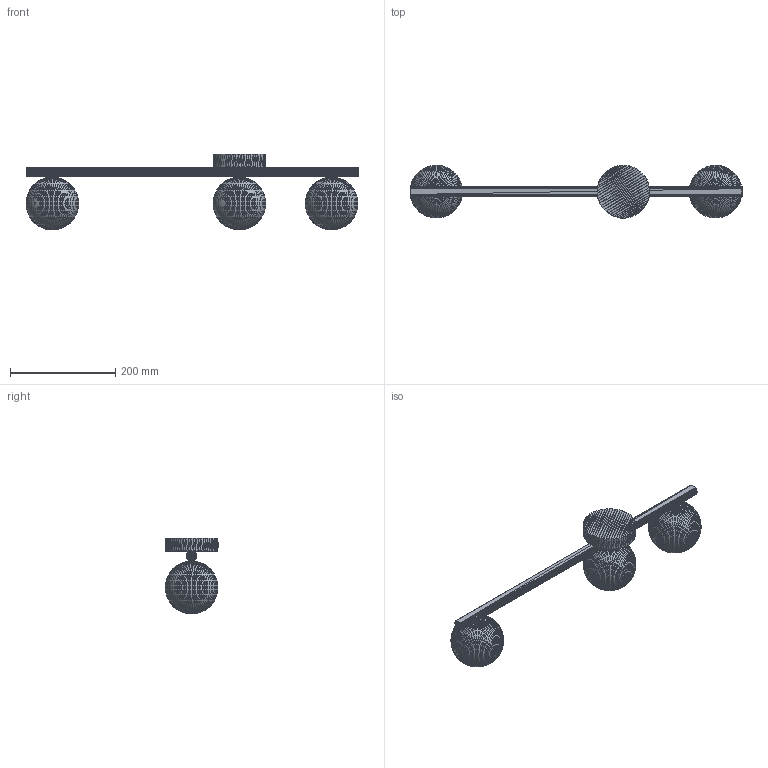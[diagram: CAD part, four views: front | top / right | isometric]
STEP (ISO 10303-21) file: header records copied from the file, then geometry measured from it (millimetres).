
FILE_DESCRIPTION(('FreeCAD Model'),'2;1');
FILE_NAME('Open CASCADE Shape Model','2022-11-30T01:14:23',('Author'),( ''),'Open CASCADE STEP processor 7.6','FreeCAD','Unknown');
FILE_SCHEMA(('AUTOMOTIVE_DESIGN { 1 0 10303 214 1 1 1 1 }'));
Length unit declared in the file: millimetre
Products named in the file (11): Unnamed; Mesh009001 (Solid); Mesh010 (Solid); Mesh001001 (Solid); Mesh002001 (Solid); Mesh003001 (Solid); Mesh004001 (Solid); Mesh005001 (Solid); Mesh006001 (Solid); Mesh007001 (Solid); Mesh008001 (Solid)
Assembly tree (10 placements, depth 2):
  Unnamed
    Mesh009001 (Solid)
    Mesh010 (Solid)
    Mesh001001 (Solid)
    Mesh002001 (Solid)
    Mesh003001 (Solid)
    Mesh004001 (Solid)
    Mesh005001 (Solid)
    Mesh006001 (Solid)
    Mesh007001 (Solid)
    Mesh008001 (Solid)
Bounding box: 630.08 x 101.49 x 143.69 mm (x, y, z)
Volume: 1958510 mm3; surface area: 166138.8 mm2
Topology: 8 solids, 10 shells, 29700 faces, 44562 edges, 14880 vertices
Faces by surface type: plane 29700
Entity records: 1313850 total; most frequent: DIRECTION 218965, CARTESIAN_POINT 202028, LINE 151491, VECTOR 151491, ORIENTED_EDGE 101178, PCURVE 100986, DEFINITIONAL_REPRESENTATION 100986, EDGE_CURVE 50505
